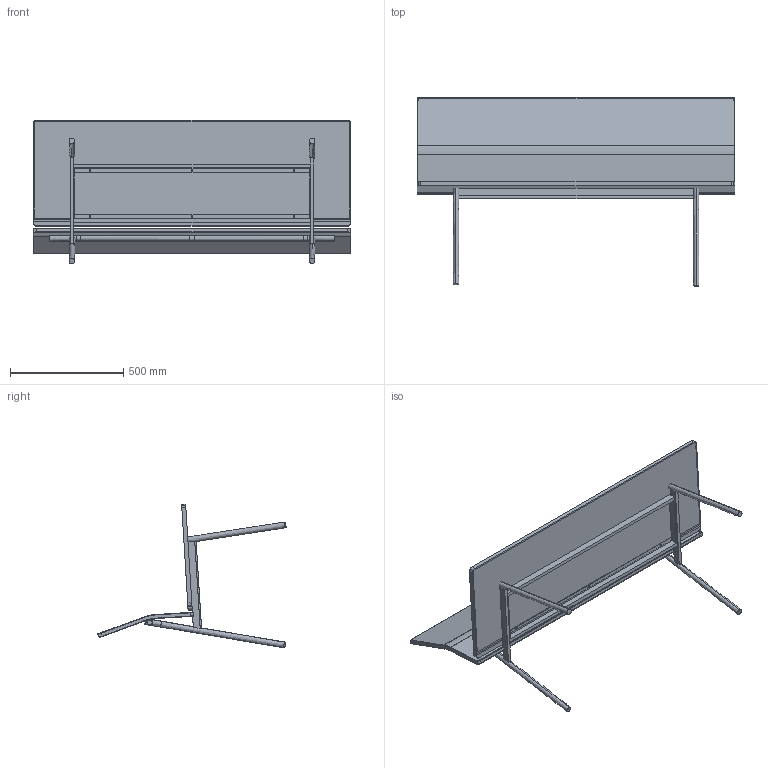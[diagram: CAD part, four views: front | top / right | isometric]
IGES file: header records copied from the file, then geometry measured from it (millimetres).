
Start section: SolidWorks IGES file using analytic representation for surfaces
Global section: file name: Z:\01-VICCARBE\PRODUCTOS\59-TORII\04-MODELADOS (PLANOS)\WEB\Viccarbe_Torii bench_3D\Viccarbe_Torii bench_1400.IGS; native system: SolidWorks 2013; preprocessor: SolidWorks 2013; author: bdisenyo; date: 180710.174932; units: millimetre
Bounding box: 1400 x 831.86 x 634.15 mm (x, y, z)
Surface area: 5994143.2 mm2 (no closed solid volume)
Topology: 0 solids, 0 shells, 154 faces, 2168 edges, 2168 vertices
Faces by surface type: bspline 92, revolution 62
